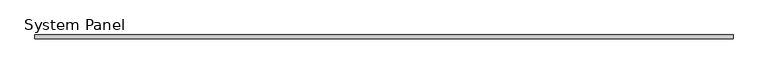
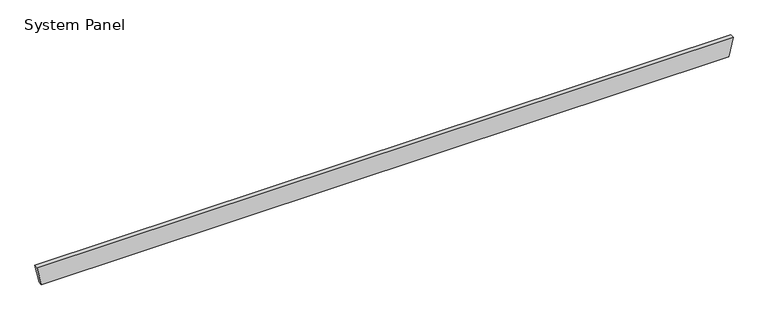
"""IFC4 building model written with IfcOpenShell, lengths in millimetres: plate geometry, System Panel : MetecnoPanel_75mm_Plain_Surfmist."""

from ifc_helpers import new_model, si_unit, frame, origin, place, context, project, spatial, polyline, outline, extrude, source, transform, mapped, element, save


def system_panel_118ae758(model_context):
    return source(origin(), model_context, "Body", "SweptSolid", [
        extrude(outline(polyline([(0.0, -6717.3970701), (0.0, 6717.3970701), (379.9704237, 6800.0), (379.9704237, -6800.0), (0.0, -6717.3970701)])), frame((0.0, -75.0, 0.0), z_axis=(0.0, 1.0, 0.0), x_axis=(0.0, 0.0, 1.0)), (0.0, 0.0, 1.0), 75.0),
    ])


if __name__ == "__main__":
    model = new_model("IFC4")
    model_context = context("Model", 3, world=origin())
    ifc_project = project(units=[si_unit("LENGTHUNIT", "METRE", prefix="MILLI")], contexts=[model_context])
    site = spatial("IfcSite", under=ifc_project)
    building = spatial("IfcBuilding", under=site)
    placement = place(None, origin())
    system_panel_shape = system_panel_118ae758(model_context)
    element("IfcPlate", 1, ObjectType="System Panel : MetecnoPanel_75mm_Plain_Surfmist", at=placement, inside=building, context=model_context, shape_type="MappedRepresentation", body=[
        mapped(system_panel_shape, transform((0.0, 0.0, 0.0), x_axis=(1.0, 0.0, 0.0), y_axis=(0.0, 1.0, 0.0), z_axis=(0.0, 0.0, 1.0))),
    ])
    save(model, "model.ifc")
